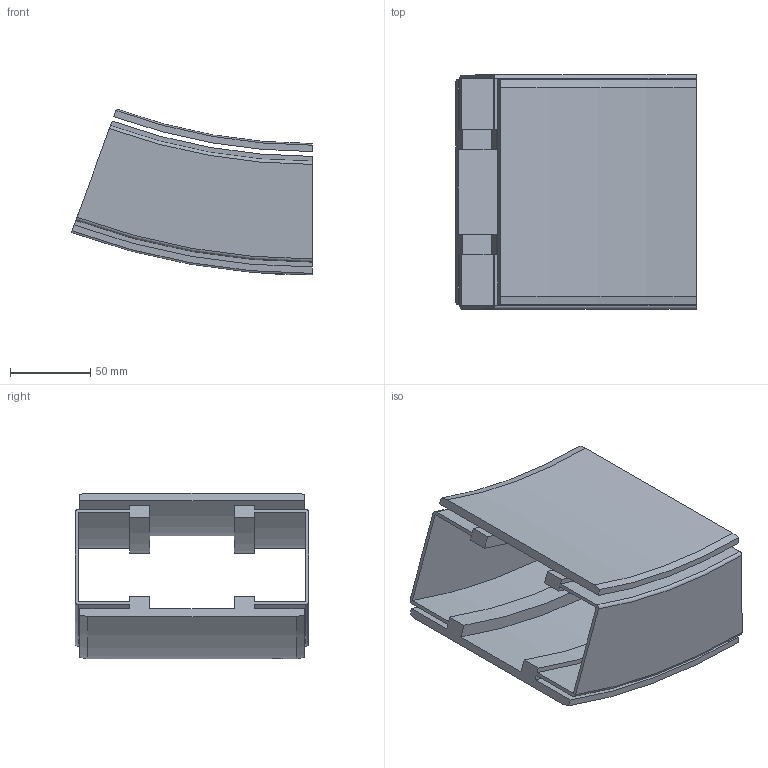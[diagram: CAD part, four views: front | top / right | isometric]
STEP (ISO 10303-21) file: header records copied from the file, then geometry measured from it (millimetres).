
FILE_DESCRIPTION(/* description */ ('VERTIKALKURVA S540 R400'),/* implementation_level */ '2;1');
FILE_NAME(/* name */ '540-5645+140-2000-NER-01.stp',/* time_stamp */ '2022-09-21T10:50:30+02:00',/* author */ ('Mathias.Dore'),/* organization */ ('CARRYLINE'),/* preprocessor_version */ 'ST-DEVELOPER v19.2',/* originating_system */ 'Autodesk Inventor 2023',/* authorisation */ '');
FILE_SCHEMA (('AUTOMOTIVE_DESIGN { 1 0 10303 214 3 1 1 }'));
Length unit declared in the file: millimetre
Products named in the file (1): 540-5645+140-2000-NER-01
Bounding box: 150.32 x 146 x 103.56 mm (x, y, z)
Volume: 319650.9 mm3; surface area: 169424.9 mm2
Topology: 2 solids, 2 shells, 87 faces, 234 edges, 156 vertices
Faces by surface type: plane 40, cylinder 25, bspline 14, cone 4, torus 4
Entity records: 7378 total; most frequent: CARTESIAN_POINT 5179, ORIENTED_EDGE 468, DIRECTION 408, EDGE_CURVE 234, VERTEX_POINT 156, AXIS2_PLACEMENT_3D 141, LINE 126, VECTOR 126
